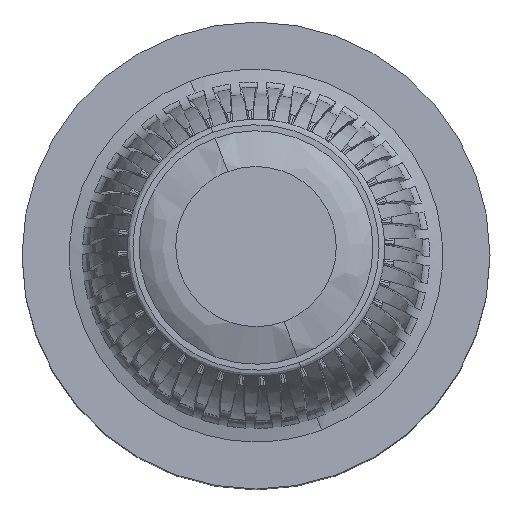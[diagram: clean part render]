
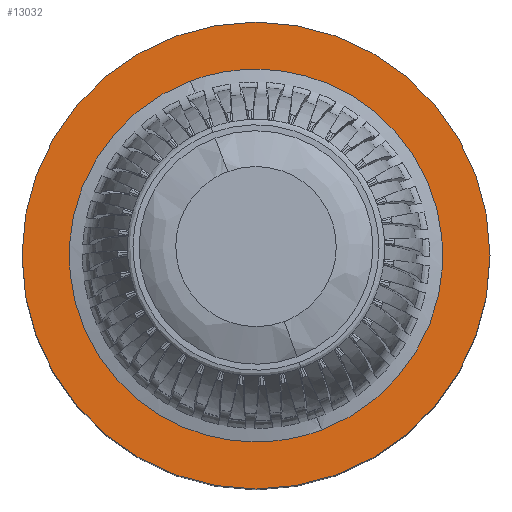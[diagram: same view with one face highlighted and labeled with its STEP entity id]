
A CAD part, left-side view. The second image highlights one B-rep face of the part: STEP entity #13032.
In plain terms, the highlighted planar face has unit normal (-0.998, 0, 0.067).
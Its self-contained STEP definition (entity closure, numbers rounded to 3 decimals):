
#532 = EDGE_CURVE ( 'NONE', #21230, #16957, #16965, .T. ) ;
#1290 = ORIENTED_EDGE ( 'NONE', *, *, #3339, .F. ) ;
#1294 = EDGE_LOOP ( 'NONE', ( #12126, #12839 ) ) ;
#2849 = CARTESIAN_POINT ( 'NONE',  ( -110.549, 72.395, 184.755 ) ) ;
#3295 = ORIENTED_EDGE ( 'NONE', *, *, #24820, .F. ) ;
#3339 = EDGE_CURVE ( 'NONE', #8008, #14292, #16591, .T. ) ;
#3365 =( BOUNDED_CURVE ( )  B_SPLINE_CURVE ( 3, ( #5853, #11986, #9900, #23551 ),
 .UNSPECIFIED., .F., .F. ) 
 B_SPLINE_CURVE_WITH_KNOTS ( ( 4, 4 ),
 ( 0.5, 1. ),
 .UNSPECIFIED. ) 
 CURVE ( )  GEOMETRIC_REPRESENTATION_ITEM ( )  RATIONAL_B_SPLINE_CURVE ( ( 1., 0.333, 0.333, 1. ) ) 
 REPRESENTATION_ITEM ( '' )  );
#4471 = CARTESIAN_POINT ( 'NONE',  ( -112.898, 72.395, 149.834 ) ) ;
#4783 = DIRECTION ( 'NONE',  ( 0.998, 0., -0.067 ) ) ;
#5197 = DIRECTION ( 'NONE',  ( -0.067, 0., -0.998 ) ) ;
#5853 = CARTESIAN_POINT ( 'NONE',  ( -112.305, 62.596, 158.652 ) ) ;
#8008 = VERTEX_POINT ( 'NONE', #8072 ) ;
#8072 = CARTESIAN_POINT ( 'NONE',  ( -108.792, 82.195, 210.859 ) ) ;
#8454 = AXIS2_PLACEMENT_3D ( 'NONE', #14872, #24957, #20659 ) ;
#9900 = CARTESIAN_POINT ( 'NONE',  ( -107.476, 29.87, 230.414 ) ) ;
#10909 = DIRECTION ( 'NONE',  ( 0.998, 0., -0.067 ) ) ;
#11464 = CARTESIAN_POINT ( 'NONE',  ( -108.199, 72.395, 219.676 ) ) ;
#11986 = CARTESIAN_POINT ( 'NONE',  ( -110.989, 10.27, 178.207 ) ) ;
#12126 = ORIENTED_EDGE ( 'NONE', *, *, #24187, .F. ) ;
#12223 = CARTESIAN_POINT ( 'NONE',  ( -108.792, 82.195, 210.859 ) ) ;
#12839 = ORIENTED_EDGE ( 'NONE', *, *, #532, .F. ) ;
#13032 = ADVANCED_FACE ( 'NONE', ( #20154, #24753 ), #20758, .F. ) ;
#14198 = CARTESIAN_POINT ( 'NONE',  ( -113.621, 114.921, 139.097 ) ) ;
#14292 = VERTEX_POINT ( 'NONE', #19389 ) ;
#14381 = CARTESIAN_POINT ( 'NONE',  ( -110.108, 134.52, 191.304 ) ) ;
#14872 = CARTESIAN_POINT ( 'NONE',  ( -110.549, 72.395, 184.755 ) ) ;
#15223 = CARTESIAN_POINT ( 'NONE',  ( -110.549, 72.395, 184.755 ) ) ;
#16258 = CIRCLE ( 'NONE', #8454, 35. ) ;
#16591 =( BOUNDED_CURVE ( )  B_SPLINE_CURVE ( 3, ( #12223, #14381, #14198, #18156 ),
 .UNSPECIFIED., .F., .F. ) 
 B_SPLINE_CURVE_WITH_KNOTS ( ( 4, 4 ),
 ( 0., 0.5 ),
 .UNSPECIFIED. ) 
 CURVE ( )  GEOMETRIC_REPRESENTATION_ITEM ( )  RATIONAL_B_SPLINE_CURVE ( ( 1., 0.333, 0.333, 1. ) ) 
 REPRESENTATION_ITEM ( '' )  );
#16957 = VERTEX_POINT ( 'NONE', #11464 ) ;
#16965 = CIRCLE ( 'NONE', #19925, 35. ) ;
#18156 = CARTESIAN_POINT ( 'NONE',  ( -112.305, 62.596, 158.652 ) ) ;
#18258 = AXIS2_PLACEMENT_3D ( 'NONE', #15223, #10909, #5197 ) ;
#19389 = CARTESIAN_POINT ( 'NONE',  ( -112.305, 62.596, 158.652 ) ) ;
#19925 = AXIS2_PLACEMENT_3D ( 'NONE', #2849, #4783, #20845 ) ;
#20154 = FACE_BOUND ( 'NONE', #23242, .T. ) ;
#20659 = DIRECTION ( 'NONE',  ( 0.067, 0., 0.998 ) ) ;
#20758 = PLANE ( 'NONE',  #18258 ) ;
#20845 = DIRECTION ( 'NONE',  ( 0.067, 0., 0.998 ) ) ;
#21230 = VERTEX_POINT ( 'NONE', #4471 ) ;
#23242 = EDGE_LOOP ( 'NONE', ( #1290, #3295 ) ) ;
#23551 = CARTESIAN_POINT ( 'NONE',  ( -108.792, 82.195, 210.859 ) ) ;
#24187 = EDGE_CURVE ( 'NONE', #16957, #21230, #16258, .T. ) ;
#24753 = FACE_OUTER_BOUND ( 'NONE', #1294, .T. ) ;
#24820 = EDGE_CURVE ( 'NONE', #14292, #8008, #3365, .T. ) ;
#24957 = DIRECTION ( 'NONE',  ( 0.998, 0., -0.067 ) ) ;
